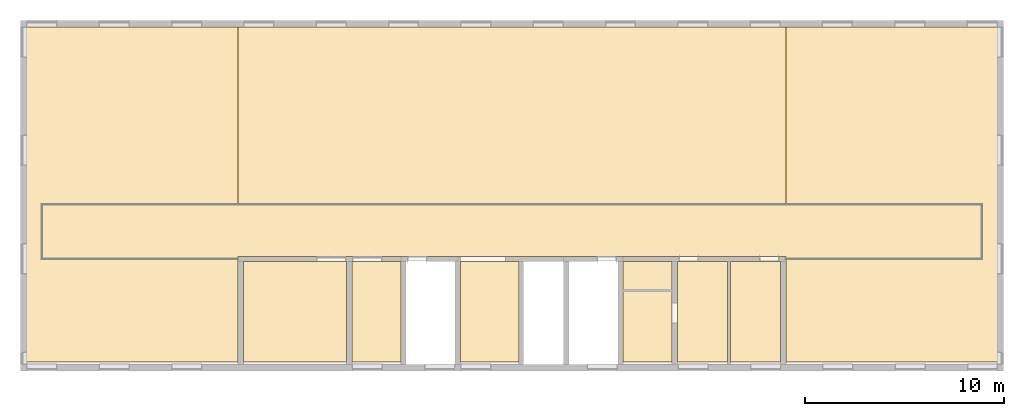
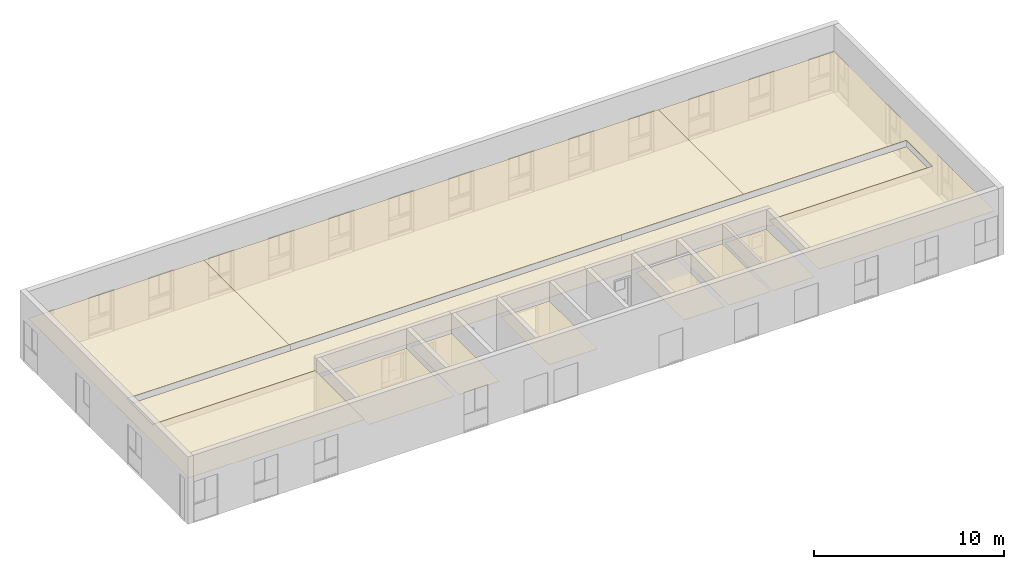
# One storey, part 11 of 11: 10 coverings.
"""IFC4X3 building model written with IfcOpenShell, lengths in millimetres."""

from ifc_helpers import new_model, entity, si_unit, converted_unit, derived_unit, direction, frame, frame_2d, origin, origin_2d_with_axis, place, context, subcontext, project, spatial, polyline, rectangle, outline, extrude, material, layer, layer_set, layer_usage, type_object, element, save


model = new_model("IFC4X3")

# Units and contexts
model_context = context("Model", 3, precision=0.01, world=origin(), true_north=direction((6.12303176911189e-17, 1.0)))
body_context = subcontext(model_context, "Body", "Model", "MODEL_VIEW")
ifc_project = project(units=[si_unit("LENGTHUNIT", "METRE", prefix="MILLI"), si_unit("AREAUNIT", "SQUARE_METRE"), si_unit("VOLUMEUNIT", "CUBIC_METRE"), converted_unit("PLANEANGLEUNIT", "DEGREE", entity("IfcPlaneAngleMeasure", 0.0174532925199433), si_unit("PLANEANGLEUNIT", "RADIAN"), dimensions=[0, 0, 0, 0, 0, 0, 0]), si_unit("MASSUNIT", "GRAM", prefix="KILO"), derived_unit("MASSDENSITYUNIT", [(si_unit("MASSUNIT", "GRAM", prefix="KILO"), 1), (si_unit("LENGTHUNIT", "METRE"), -3)]), derived_unit("IONCONCENTRATIONUNIT", [(si_unit("MASSUNIT", "GRAM", prefix="KILO"), 1), (si_unit("LENGTHUNIT", "METRE"), -3)]), derived_unit("MOMENTOFINERTIAUNIT", [(si_unit("LENGTHUNIT", "METRE"), 4)]), si_unit("TIMEUNIT", "SECOND"), si_unit("FREQUENCYUNIT", "HERTZ"), si_unit("THERMODYNAMICTEMPERATUREUNIT", "DEGREE_CELSIUS"), derived_unit("THERMALTRANSMITTANCEUNIT", [(si_unit("MASSUNIT", "GRAM", prefix="KILO"), 1), (si_unit("THERMODYNAMICTEMPERATUREUNIT", "KELVIN"), -1), (si_unit("TIMEUNIT", "SECOND"), -3)]), derived_unit("THERMALCONDUCTANCEUNIT", [(si_unit("MASSUNIT", "GRAM", prefix="KILO"), 1), (si_unit("THERMODYNAMICTEMPERATUREUNIT", "KELVIN"), -1), (si_unit("TIMEUNIT", "SECOND"), -3), (si_unit("LENGTHUNIT", "METRE"), 1)]), derived_unit("VOLUMETRICFLOWRATEUNIT", [(si_unit("LENGTHUNIT", "METRE", prefix="DECI"), 3), (si_unit("TIMEUNIT", "SECOND"), -1)]), derived_unit("MASSFLOWRATEUNIT", [(si_unit("MASSUNIT", "GRAM", prefix="KILO"), 1), (si_unit("TIMEUNIT", "SECOND"), -1)]), derived_unit("ROTATIONALFREQUENCYUNIT", [(si_unit("TIMEUNIT", "SECOND"), -1)]), si_unit("ELECTRICCURRENTUNIT", "AMPERE"), si_unit("ELECTRICVOLTAGEUNIT", "VOLT"), si_unit("POWERUNIT", "WATT"), si_unit("FORCEUNIT", "NEWTON", prefix="KILO"), si_unit("ILLUMINANCEUNIT", "LUX"), si_unit("LUMINOUSFLUXUNIT", "LUMEN"), si_unit("LUMINOUSINTENSITYUNIT", "CANDELA"), si_unit("ENERGYUNIT", "JOULE"), derived_unit("USERDEFINED", [(si_unit("MASSUNIT", "GRAM", prefix="KILO"), -1), (si_unit("LENGTHUNIT", "METRE"), -2), (si_unit("TIMEUNIT", "SECOND"), 3), (si_unit("LUMINOUSFLUXUNIT", "LUMEN"), 1)]), derived_unit("USERDEFINED", [(si_unit("MASSUNIT", "GRAM", prefix="KILO"), 1), (si_unit("TIMEUNIT", "SECOND"), -3), (si_unit("LENGTHUNIT", "METRE"), 3), (si_unit("ELECTRICCURRENTUNIT", "AMPERE"), -2)]), derived_unit("SOUNDPOWERUNIT", [(si_unit("MASSUNIT", "GRAM", prefix="KILO"), 1), (si_unit("TIMEUNIT", "SECOND"), -3), (si_unit("LENGTHUNIT", "METRE"), 2)]), derived_unit("SOUNDPRESSUREUNIT", [(si_unit("MASSUNIT", "GRAM", prefix="KILO"), 1), (si_unit("LENGTHUNIT", "METRE"), -1), (si_unit("TIMEUNIT", "SECOND"), -2)]), derived_unit("LINEARVELOCITYUNIT", [(si_unit("LENGTHUNIT", "METRE"), 1), (si_unit("TIMEUNIT", "SECOND"), -1)]), si_unit("PRESSUREUNIT", "PASCAL"), derived_unit("USERDEFINED", [(si_unit("MASSUNIT", "GRAM", prefix="KILO"), 1), (si_unit("LENGTHUNIT", "METRE"), -2), (si_unit("TIMEUNIT", "SECOND"), -2)]), derived_unit("LINEARFORCEUNIT", [(si_unit("MASSUNIT", "GRAM", prefix="KILO"), 1), (si_unit("TIMEUNIT", "SECOND"), -2)]), derived_unit("PLANARFORCEUNIT", [(si_unit("MASSUNIT", "GRAM", prefix="KILO"), 1), (si_unit("LENGTHUNIT", "METRE"), -1), (si_unit("TIMEUNIT", "SECOND"), -2)]), derived_unit("SPECIFICHEATCAPACITYUNIT", [(si_unit("THERMODYNAMICTEMPERATUREUNIT", "KELVIN"), -1), (si_unit("LENGTHUNIT", "METRE"), 2), (si_unit("TIMEUNIT", "SECOND"), -2)]), derived_unit("HEATFLUXDENSITYUNIT", [(si_unit("MASSUNIT", "GRAM", prefix="KILO"), 1), (si_unit("TIMEUNIT", "SECOND"), -3)]), derived_unit("HEATINGVALUEUNIT", [(si_unit("LENGTHUNIT", "METRE"), 2), (si_unit("TIMEUNIT", "SECOND"), -2)]), derived_unit("VAPORPERMEABILITYUNIT", [(si_unit("LENGTHUNIT", "METRE"), -1), (si_unit("TIMEUNIT", "SECOND"), 1)]), derived_unit("DYNAMICVISCOSITYUNIT", [(si_unit("MASSUNIT", "GRAM", prefix="KILO"), 1), (si_unit("TIMEUNIT", "SECOND"), -1), (si_unit("LENGTHUNIT", "METRE"), -1)]), derived_unit("THERMALEXPANSIONCOEFFICIENTUNIT", [(si_unit("THERMODYNAMICTEMPERATUREUNIT", "KELVIN"), -1)]), derived_unit("MODULUSOFELASTICITYUNIT", [(si_unit("MASSUNIT", "GRAM", prefix="KILO"), 1), (si_unit("LENGTHUNIT", "METRE"), -1), (si_unit("TIMEUNIT", "SECOND"), -2)]), derived_unit("ISOTHERMALMOISTURECAPACITYUNIT", [(si_unit("MASSUNIT", "GRAM", prefix="KILO"), -1), (si_unit("LENGTHUNIT", "METRE"), 3)]), derived_unit("MOISTUREDIFFUSIVITYUNIT", [(si_unit("TIMEUNIT", "SECOND"), -1), (si_unit("LENGTHUNIT", "METRE"), 2)]), derived_unit("AREADENSITYUNIT", [(si_unit("MASSUNIT", "GRAM", prefix="KILO"), 1), (si_unit("LENGTHUNIT", "METRE"), 2)]), derived_unit("MASSPERLENGTHUNIT", [(si_unit("MASSUNIT", "GRAM", prefix="KILO"), 1), (si_unit("LENGTHUNIT", "METRE"), -1)]), derived_unit("THERMALRESISTANCEUNIT", [(si_unit("MASSUNIT", "GRAM", prefix="KILO"), -1), (si_unit("TIMEUNIT", "SECOND"), 3), (si_unit("THERMODYNAMICTEMPERATUREUNIT", "KELVIN"), 1)]), derived_unit("ACCELERATIONUNIT", [(si_unit("LENGTHUNIT", "METRE"), 1), (si_unit("TIMEUNIT", "SECOND"), -2)]), derived_unit("ANGULARVELOCITYUNIT", [(si_unit("TIMEUNIT", "SECOND"), -1), (si_unit("PLANEANGLEUNIT", "RADIAN"), 1)]), derived_unit("LINEARSTIFFNESSUNIT", [(si_unit("MASSUNIT", "GRAM", prefix="KILO"), 1), (si_unit("TIMEUNIT", "SECOND"), -2)]), derived_unit("WARPINGCONSTANTUNIT", [(si_unit("LENGTHUNIT", "METRE"), 6)]), derived_unit("LINEARMOMENTUNIT", [(si_unit("MASSUNIT", "GRAM", prefix="KILO"), 1), (si_unit("LENGTHUNIT", "METRE"), 1), (si_unit("TIMEUNIT", "SECOND"), -2)]), derived_unit("TORQUEUNIT", [(si_unit("MASSUNIT", "GRAM", prefix="KILO"), 1), (si_unit("LENGTHUNIT", "METRE"), 2), (si_unit("TIMEUNIT", "SECOND"), -2)])], contexts=[model_context])

# Site, building, storey
site_placement = place(None, origin())
site = spatial("IfcSite", under=ifc_project, at=site_placement, Name="Default", CompositionType="ELEMENT")
building_placement = place(site_placement, origin())
building = spatial("IfcBuilding", under=site, at=building_placement, Name="事務所ビル", CompositionType="ELEMENT")
storey_placement = place(building_placement, frame((0.0, 0.0, 8000.0)))
storey = spatial("IfcBuildingStorey", under=building, at=storey_placement, Name="3FL", CompositionType="ELEMENT", Elevation=8000.0)

# Coverings
ifc_material = material(Name="<Unnamed>")
ifc_layer = layer(ifc_material, 10.0, Name="Layer")
ifc_layer_set = layer_set([ifc_layer], Name="天井:(仕上)GB-Rt12.5+DR t12")
ifc_layer_usage_1 = layer_usage(ifc_layer_set, "AXIS3", "NEGATIVE", 0.0)
covering_type = type_object("IfcCoveringType", Name="天井:(仕上)GB-Rt12.5+DR t12", PredefinedType="CEILING")
covering_1_placement = place(storey_placement, frame((923.499999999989, 5460.0, 2200.0)))
element("IfcCovering", 1, at=covering_1_placement, inside=storey, type_object=covering_type, material=ifc_layer_usage_1, Name="天井:(仕上)GB-Rt12.5+DR t12", ObjectType="天井:(仕上)GB-Rt12.5+DR t12", PredefinedType="CEILING", context=body_context, shape_type="SweptSolid", body=[
    extrude(outline(polyline([(13778.625, -715.499999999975), (23656.625, -715.499999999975), (23656.625, 2014.50000000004), (-23649.875, 2014.50000000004), (-23649.875, -715.499999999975), (-13785.375, -715.499999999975), (-13785.375, -583.500000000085), (13778.625, -583.500000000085), (13778.625, -715.499999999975)])), frame((23649.875, 715.499999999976, 0.0)), (0.0, 0.0, 1.0), 9.99999999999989),
])
ifc_layer_usage_2 = layer_usage(ifc_layer_set, "AXIS3", "NEGATIVE", 0.0)
covering_2_placement = place(storey_placement, frame((132.0, 260.0, 2600.0)))
element("IfcCovering", 2, at=covering_2_placement, inside=storey, type_object=covering_type, material=ifc_layer_usage_2, Name="天井:(仕上)GB-Rt12.5+DR t12", ObjectType="天井:(仕上)GB-Rt12.5+DR t12", PredefinedType="CEILING", context=body_context, shape_type="SweptSolid", body=[
    extrude(outline(polyline([(-5133.5, -9379.75000000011), (5522.5, -9379.75000000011), (5522.5, 7503.25000000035), (-5133.49999999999, 7503.25000000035), (-5133.5, 2303.24999999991), (4744.49999999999, 2303.24999999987), (4744.49999999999, -426.750000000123), (-5133.5, -426.750000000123), (-5133.5, -9379.75000000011)])), frame((5522.5, 7503.25000000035, 0.0), z_axis=(0.0, 0.0, 1.0), x_axis=(-1.0, 0.0, 0.0)), (0.0, 0.0, 1.0), 9.99999999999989),
])
ifc_layer_usage_3 = layer_usage(ifc_layer_set, "AXIS3", "NEGATIVE", 0.0)
covering_3_placement = place(storey_placement, frame((10788.0, 8190.0, 2600.0)))
element("IfcCovering", 3, at=covering_3_placement, inside=storey, type_object=covering_type, material=ifc_layer_usage_3, Name="天井:(仕上)GB-Rt12.5+DR t12", ObjectType="天井:(仕上)GB-Rt12.5+DR t12", PredefinedType="CEILING", context=body_context, shape_type="SweptSolid", body=[
    extrude(rectangle(XDim=8952.99999999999, YDim=27564.0, at=frame_2d((4.54747350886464e-13, 2.72848410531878e-12), x_axis=(1.0, 0.0))), frame((13782.0, 4476.50000000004, 0.0), z_axis=(0.0, 0.0, 1.0), x_axis=(0.0, 1.0, 0.0)), (0.0, 0.0, 1.0), 9.99999999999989),
])
ifc_layer_usage_4 = layer_usage(ifc_layer_set, "AXIS3", "NEGATIVE", 0.0)
covering_4_placement = place(storey_placement, frame((11052.0, 260.0, 2200.0)))
element("IfcCovering", 4, at=covering_4_placement, inside=storey, type_object=covering_type, material=ifc_layer_usage_4, Name="天井:(仕上)GB-Rt12.5+DR t12", ObjectType="天井:(仕上)GB-Rt12.5+DR t12", PredefinedType="CEILING", context=body_context, shape_type="SweptSolid", body=[
    extrude(rectangle(XDim=5196.00000000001, YDim=5068.00000000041, at=origin_2d_with_axis()), frame((2598.0, 2534.0, 0.0), z_axis=(0.0, 0.0, 1.0), x_axis=(-1.0, 0.0, 0.0)), (0.0, 0.0, 1.0), 9.99999999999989),
])

# Space
space_1_placement = place(storey_placement, origin())
space_1 = spatial("IfcSpace", under=storey, at=space_1_placement, Name="107", CompositionType="ELEMENT", PredefinedType="NOTDEFINED")

# Covering
ifc_layer_usage_5 = layer_usage(ifc_layer_set, "AXIS3", "NEGATIVE", 0.0)
covering_5_placement = place(space_1_placement, frame((16512.0, 260.0, 2200.0)))
element("IfcCovering", 5, at=covering_5_placement, inside=space_1, type_object=covering_type, material=ifc_layer_usage_5, Name="天井:(仕上)GB-Rt12.5+DR t12", ObjectType="天井:(仕上)GB-Rt12.5+DR t12", PredefinedType="CEILING", context=body_context, shape_type="SweptSolid", body=[
    extrude(rectangle(XDim=2466.00000000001, YDim=5068.00000000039, at=frame_2d((-1.02318153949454e-12, 3.63797880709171e-12), x_axis=(1.0, 0.0))), frame((1233.0, 2534.0, 0.0), z_axis=(0.0, 0.0, 1.0), x_axis=(-1.0, 0.0, 0.0)), (0.0, 0.0, 1.0), 9.99999999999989),
])

# Space
space_2_placement = place(storey_placement, origin())
space_2 = spatial("IfcSpace", under=storey, at=space_2_placement, Name="109", CompositionType="ELEMENT", PredefinedType="NOTDEFINED")

# Coverings
ifc_layer_usage_6 = layer_usage(ifc_layer_set, "AXIS3", "NEGATIVE", 0.0)
covering_6_placement = place(space_2_placement, frame((21972.0, 260.0, 2200.0)))
element("IfcCovering", 6, at=covering_6_placement, inside=space_2, type_object=covering_type, material=ifc_layer_usage_6, Name="天井:(仕上)GB-Rt12.5+DR t12", ObjectType="天井:(仕上)GB-Rt12.5+DR t12", PredefinedType="CEILING", context=body_context, shape_type="SweptSolid", body=[
    extrude(rectangle(XDim=2948.00000000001, YDim=5068.00000000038, at=frame_2d((2.1600499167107e-12, 2.59205990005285e-11), x_axis=(1.0, 0.0))), frame((1474.0, 2534.0, 0.0), z_axis=(0.0, 0.0, 1.0), x_axis=(-1.0, 0.0, 0.0)), (0.0, 0.0, 1.0), 9.99999999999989),
])
ifc_layer_usage_7 = layer_usage(ifc_layer_set, "AXIS3", "NEGATIVE", 0.0)
covering_7_placement = place(storey_placement, frame((30162.0, 260.0, 2200.0)))
element("IfcCovering", 7, at=covering_7_placement, inside=storey, type_object=covering_type, material=ifc_layer_usage_7, Name="天井:(仕上)GB-Rt12.5+DR t12", ObjectType="天井:(仕上)GB-Rt12.5+DR t12", PredefinedType="CEILING", context=body_context, shape_type="SweptSolid", body=[
    extrude(rectangle(XDim=2466.0, YDim=5068.00000000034, at=frame_2d((-2.1600499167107e-12, 1.50066625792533e-11), x_axis=(1.0, 0.0))), frame((1233.0, 2534.0, 0.0), z_axis=(0.0, 0.0, 1.0), x_axis=(-1.0, 0.0, 0.0)), (0.0, 0.0, 1.0), 9.99999999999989),
])

# Space
space_3_placement = place(storey_placement, origin())
space_3 = spatial("IfcSpace", under=storey, at=space_3_placement, Name="111", CompositionType="ELEMENT", PredefinedType="NOTDEFINED")

# Covering
ifc_layer_usage_8 = layer_usage(ifc_layer_set, "AXIS3", "NEGATIVE", 0.0)
covering_8_placement = place(space_3_placement, frame((32892.0, 260.0, 2200.0)))
element("IfcCovering", 8, at=covering_8_placement, inside=space_3, type_object=covering_type, material=ifc_layer_usage_8, Name="天井:(仕上)GB-Rt12.5+DR t12", ObjectType="天井:(仕上)GB-Rt12.5+DR t12", PredefinedType="CEILING", context=body_context, shape_type="SweptSolid", body=[
    extrude(rectangle(XDim=2523.00000000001, YDim=5068.00000000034, at=frame_2d((-2.1600499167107e-12, 1.68256519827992e-11), x_axis=(1.0, 0.0))), frame((1261.50000000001, 2534.0, 0.0), z_axis=(0.0, 0.0, 1.0), x_axis=(-1.0, 0.0, 0.0)), (0.0, 0.0, 1.0), 9.99999999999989),
])

# Space
space_4_placement = place(storey_placement, origin())
space_4 = spatial("IfcSpace", under=storey, at=space_4_placement, Name="112", CompositionType="ELEMENT", PredefinedType="NOTDEFINED")

# Coverings
ifc_layer_usage_9 = layer_usage(ifc_layer_set, "AXIS3", "NEGATIVE", 0.0)
covering_9_placement = place(space_4_placement, frame((35565.0, 260.0, 2200.0)))
element("IfcCovering", 9, at=covering_9_placement, inside=space_4, type_object=covering_type, material=ifc_layer_usage_9, Name="天井:(仕上)GB-Rt12.5+DR t12", ObjectType="天井:(仕上)GB-Rt12.5+DR t12", PredefinedType="CEILING", context=body_context, shape_type="SweptSolid", body=[
    extrude(rectangle(XDim=2523.0, YDim=5068.00000000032, at=frame_2d((2.1600499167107e-12, 1.88720150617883e-11), x_axis=(1.0, 0.0))), frame((1261.5, 2534.0, 0.0), z_axis=(0.0, 0.0, 1.0), x_axis=(-1.0, 0.0, 0.0)), (0.0, 0.0, 1.0), 9.99999999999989),
])
ifc_layer_usage_10 = layer_usage(ifc_layer_set, "AXIS3", "NEGATIVE", 0.0)
covering_10_placement = place(storey_placement, frame((38352.0, 260.0, 2600.0)))
element("IfcCovering", 10, at=covering_10_placement, inside=storey, type_object=covering_type, material=ifc_layer_usage_10, Name="天井:(仕上)GB-Rt12.5+DR t12", ObjectType="天井:(仕上)GB-Rt12.5+DR t12", PredefinedType="CEILING", context=body_context, shape_type="SweptSolid", body=[
    extrude(outline(polyline([(-9379.75000000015, -5133.50000000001), (-426.75000000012, -5133.50000000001), (-426.750000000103, 4744.49999999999), (2303.24999999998, 4744.49999999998), (2303.24999999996, -5133.50000000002), (7503.25000000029, -5133.50000000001), (7503.25000000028, 5522.50000000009), (-9379.75000000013, 5522.49999999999), (-9379.75000000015, -5133.50000000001)])), frame((5133.50000000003, 7503.25000000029, 0.0), z_axis=(0.0, 0.0, 1.0), x_axis=(0.0, -1.0, 0.0)), (0.0, 0.0, 1.0), 9.99999999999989),
])

save(model, "model.ifc")
